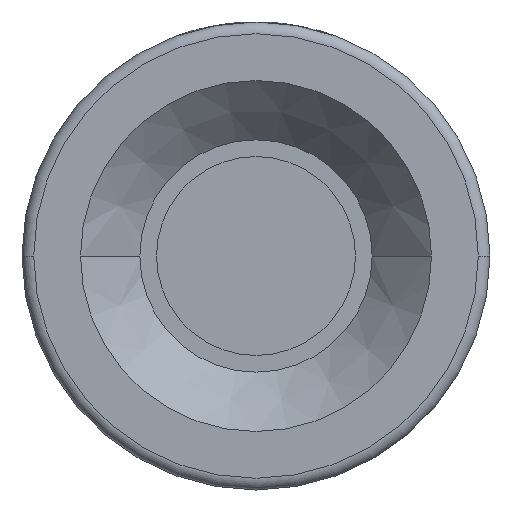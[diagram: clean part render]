
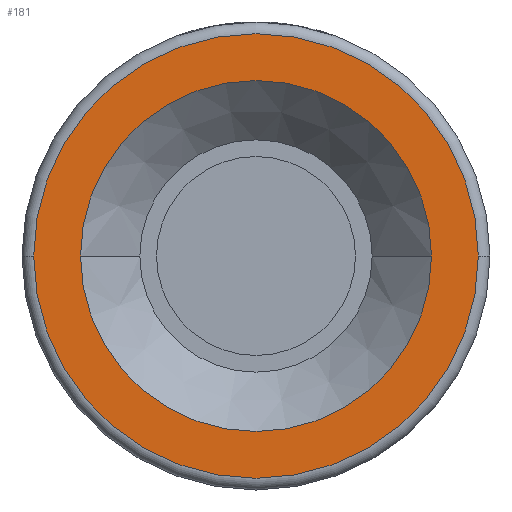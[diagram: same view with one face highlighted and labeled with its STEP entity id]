
A CAD part, front view. The second image highlights one B-rep face of the part: STEP entity #181.
In plain terms, the highlighted planar face has unit normal (0, -1, 0).
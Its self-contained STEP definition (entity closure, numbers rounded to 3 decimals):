
#145 = EDGE_CURVE ( 'NONE', #2095, #2011, #3956, .T. ) ;
#180 = CARTESIAN_POINT ( 'NONE',  ( 15., -13., 0. ) ) ;
#181 = ADVANCED_FACE ( 'NONE', ( #1538, #2185 ), #2531, .T. ) ;
#185 = DIRECTION ( 'NONE',  ( 1., 0., 0. ) ) ;
#315 = DIRECTION ( 'NONE',  ( 0., -1., 0. ) ) ;
#391 = EDGE_LOOP ( 'NONE', ( #3793, #3024 ) ) ;
#509 = CIRCLE ( 'NONE', #1271, 15. ) ;
#526 = DIRECTION ( 'NONE',  ( 0., -1., 0. ) ) ;
#654 = EDGE_CURVE ( 'NONE', #2834, #2593, #509, .T. ) ;
#689 = CARTESIAN_POINT ( 'NONE',  ( -15., -13., 0. ) ) ;
#788 = DIRECTION ( 'NONE',  ( 1., 0., 0. ) ) ;
#807 = CARTESIAN_POINT ( 'NONE',  ( 19., -13., 0. ) ) ;
#911 = CARTESIAN_POINT ( 'NONE',  ( -19., -13., 0. ) ) ;
#955 = CIRCLE ( 'NONE', #1511, 19. ) ;
#1087 = DIRECTION ( 'NONE',  ( 0., -1., 0. ) ) ;
#1260 = EDGE_CURVE ( 'NONE', #2593, #2834, #3350, .T. ) ;
#1271 = AXIS2_PLACEMENT_3D ( 'NONE', #3780, #4145, #788 ) ;
#1511 = AXIS2_PLACEMENT_3D ( 'NONE', #3243, #315, #1579 ) ;
#1538 = FACE_OUTER_BOUND ( 'NONE', #391, .T. ) ;
#1579 = DIRECTION ( 'NONE',  ( 1., 0., 0. ) ) ;
#1619 = EDGE_LOOP ( 'NONE', ( #2997, #4204 ) ) ;
#1781 = DIRECTION ( 'NONE',  ( 0., -1., 0. ) ) ;
#1836 = AXIS2_PLACEMENT_3D ( 'NONE', #2126, #1087, #185 ) ;
#2011 = VERTEX_POINT ( 'NONE', #807 ) ;
#2095 = VERTEX_POINT ( 'NONE', #911 ) ;
#2126 = CARTESIAN_POINT ( 'NONE',  ( 0., -13., 0. ) ) ;
#2185 = FACE_BOUND ( 'NONE', #1619, .T. ) ;
#2303 = AXIS2_PLACEMENT_3D ( 'NONE', #3777, #1781, #2793 ) ;
#2531 = PLANE ( 'NONE',  #2303 ) ;
#2593 = VERTEX_POINT ( 'NONE', #180 ) ;
#2793 = DIRECTION ( 'NONE',  ( 1., 0., 0. ) ) ;
#2834 = VERTEX_POINT ( 'NONE', #689 ) ;
#2837 = DIRECTION ( 'NONE',  ( 1., 0., 0. ) ) ;
#2997 = ORIENTED_EDGE ( 'NONE', *, *, #1260, .F. ) ;
#3024 = ORIENTED_EDGE ( 'NONE', *, *, #145, .T. ) ;
#3063 = AXIS2_PLACEMENT_3D ( 'NONE', #3463, #526, #2837 ) ;
#3243 = CARTESIAN_POINT ( 'NONE',  ( 0., -13., 0. ) ) ;
#3350 = CIRCLE ( 'NONE', #1836, 15. ) ;
#3463 = CARTESIAN_POINT ( 'NONE',  ( 0., -13., 0. ) ) ;
#3777 = CARTESIAN_POINT ( 'NONE',  ( 20., -13., 0. ) ) ;
#3780 = CARTESIAN_POINT ( 'NONE',  ( 0., -13., 0. ) ) ;
#3793 = ORIENTED_EDGE ( 'NONE', *, *, #3970, .T. ) ;
#3956 = CIRCLE ( 'NONE', #3063, 19. ) ;
#3970 = EDGE_CURVE ( 'NONE', #2011, #2095, #955, .T. ) ;
#4145 = DIRECTION ( 'NONE',  ( 0., -1., 0. ) ) ;
#4204 = ORIENTED_EDGE ( 'NONE', *, *, #654, .F. ) ;
